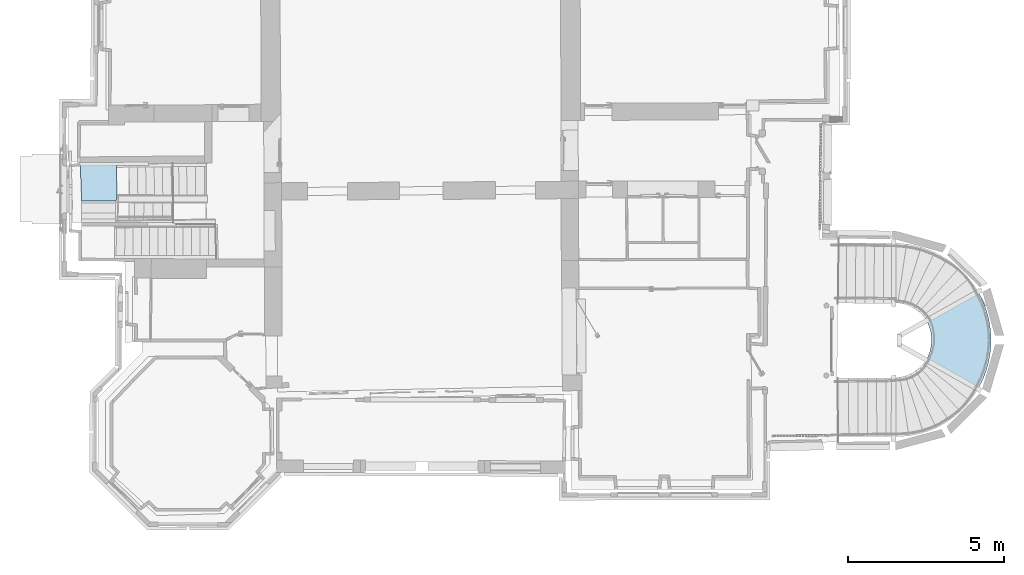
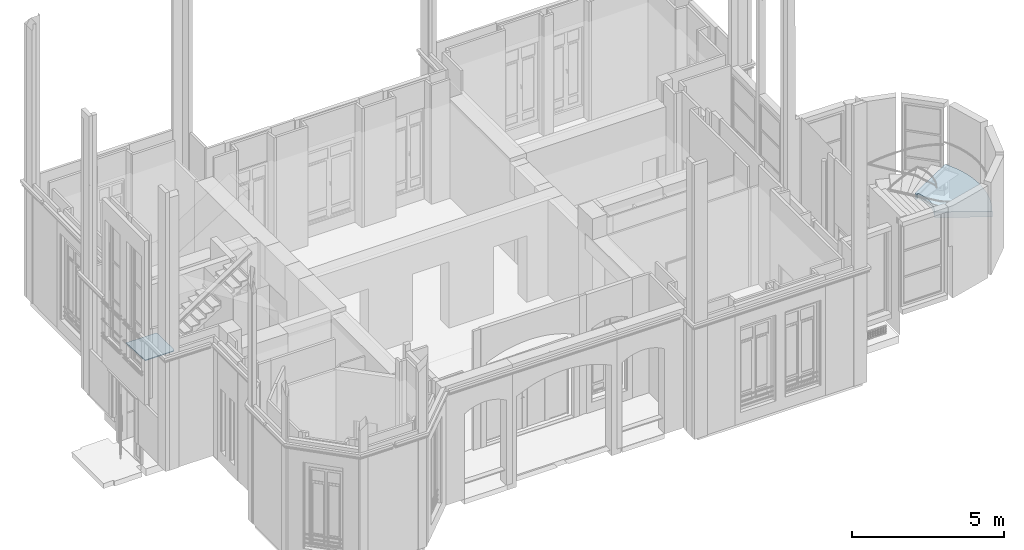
# One storey, part 39 of 97: 2 slabs, 2 elements without a shape of their own.
"""IFC2X3 building model written with IfcOpenShell, lengths in centimetres."""

from ifc_helpers import new_model, entity, si_unit, converted_unit, direction, frame, origin, origin_with_axes, place, context, subcontext, project, spatial, faceted_brep, material, material_list, element, aggregate, save


model = new_model("IFC2X3")

# Units and contexts
model_context = context("Model", 3, precision=0.0001, world=origin(), true_north=direction((0.225632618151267, 0.974212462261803, 0.0)))
body_context = subcontext(model_context, "Body", "Model", "MODEL_VIEW")
ifc_project = project(units=[si_unit("LENGTHUNIT", "METRE", prefix="CENTI"), si_unit("AREAUNIT", "SQUARE_METRE", prefix="CENTI"), si_unit("VOLUMEUNIT", "CUBIC_METRE", prefix="CENTI"), converted_unit("PLANEANGLEUNIT", "DEGREE", entity("IfcRatioMeasure", 0.0174532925), si_unit("PLANEANGLEUNIT", "RADIAN"), dimensions=[0, 0, 0, 0, 0, 0, 0])], contexts=[model_context])

# Site, building, storey
site_placement = place(None, origin_with_axes())
site = spatial("IfcSite", under=ifc_project, at=site_placement, Name="Default Site", CompositionType="ELEMENT")
building_placement = place(site_placement, origin_with_axes())
building = spatial("IfcBuilding", under=site, at=building_placement, Name="Default Building", CompositionType="ELEMENT")
storey_placement = place(building_placement, origin_with_axes())
storey = spatial("IfcBuildingStorey", under=building, at=storey_placement, Name="Rez-de-chaussée", CompositionType="ELEMENT", Elevation=0.0)

# Stair, slab
stair_1_placement = place(storey_placement, frame((1122.40148576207, -332.078331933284, 0.0), z_axis=(0.0, 0.0, 1.0), x_axis=(1.0, 0.0, 0.0)))
stair_1 = element("IfcStair", 1, at=stair_1_placement, inside=storey, Name="Escalier 718692", ShapeType="NOTDEFINED")
ifc_material_1 = material(Name="Blanc")
ifc_material_2 = material(Name="Carreau décoré (85)")
ifc_material_list = material_list([ifc_material_1, ifc_material_2])
slab_1_placement = place(stair_1_placement, frame((447.220267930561, -371.911078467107, 235.89768409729), z_axis=(0.0, 0.0, 1.0), x_axis=(0.833831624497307, -0.552018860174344, 0.0)))
slab_1 = element("IfcSlab", 2, at=slab_1_placement, material=ifc_material_list, Name="4294967285", PredefinedType="LANDING", context=body_context, shape_type="Brep", body=[
    faceted_brep([(-260.4597335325, 87.4667019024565, -20.0000047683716), (-260.4597335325, 87.4667019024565, 0.0), (-171.231371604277, 260.322120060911, 0.0), (-171.231371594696, 260.322120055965, 0.0), (-171.231371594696, 260.322120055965, -20.0000047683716), (-260.459733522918, 87.4667018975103, -20.0000047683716), (-254.288012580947, 83.0273324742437, -20.0000047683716), (-254.288012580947, 83.0273324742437, 0.0), (-260.459733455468, 87.4667020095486, 0.0), (-254.28801265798, 83.0273323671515, -20.0000047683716), (-251.144103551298, 88.0639562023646, -20.0000047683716), (-251.144103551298, 88.0639562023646, 0.0), (-254.288012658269, 83.0273325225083, 0.0), (-251.144103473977, 88.0639561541, -20.0000047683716), (0.0, 0.0, -20.0000047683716), (0.0, 0.0, 0.0), (-189.549330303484, -15.6200793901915, 0.0), (-189.549330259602, -15.6200799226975, 0.0), (-189.549330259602, -15.6200799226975, -20.0000047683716), (4.38819105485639e-08, -5.32506048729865e-07, -20.0000047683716), (-216.056686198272, 56.9985823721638, -20.0000047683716), (-79.1276598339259, 190.020454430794, -20.0000047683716), (-64.2190758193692, 172.109077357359, -20.0000047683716), (-50.6925110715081, 153.132366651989, -20.0000047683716), (-207.216155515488, 44.0223296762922, -20.0000047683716), (-226.434752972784, 68.7814403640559, -20.0000047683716), (-112.749229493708, 222.252064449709, -20.0000047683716), (-95.334633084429, 206.766087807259, -20.0000047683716), (-238.190729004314, 79.1899061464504, -20.0000047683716), (-131.273703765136, 236.391550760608, -20.0000047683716), (-150.804281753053, 249.105364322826, -20.0000047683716), (-191.147033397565, 8.88178419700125e-14, -20.0000047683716), (-6.15062594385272, 46.1676839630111, -20.0000047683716), (-2.21046684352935, 23.1990461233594, -20.0000047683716), (-194.664860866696, 15.3024299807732, -20.0000047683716), (-19.1221406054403, 90.9004954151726, -20.0000047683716), (-11.7984357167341, 68.7770824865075, -20.0000047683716), (-200.048817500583, 30.0520649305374, -20.0000047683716), (-38.6237203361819, 133.196803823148, -20.0000047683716), (-28.080612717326, 112.413950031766, -20.0000047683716), (-238.190729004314, 79.1899061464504, 0.0), (-251.144103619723, 88.0639561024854, -20.0000047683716), (-251.144103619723, 88.0639561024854, 4.27220342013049e-24), (-226.434752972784, 68.7814403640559, 0.0), (-238.190728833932, 79.1899063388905, -20.0000047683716), (-238.190728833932, 79.1899063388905, 0.0), (-216.056686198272, 56.9985823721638, 0.0), (-226.434752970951, 68.7814403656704, -20.0000047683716), (-226.434752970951, 68.7814403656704, 0.0), (-207.216155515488, 44.0223296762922, 0.0), (-216.056686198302, 56.9985823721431, -20.0000047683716), (-216.056686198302, 56.9985823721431, 0.0), (-200.048817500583, 30.0520649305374, 0.0), (-207.21615546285, 44.0223297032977, -20.0000047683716), (-207.21615546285, 44.0223297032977, 0.0), (-194.664860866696, 15.3024299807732, 0.0), (-200.048817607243, 30.0520648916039, -20.0000047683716), (-200.048817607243, 30.0520648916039, 4.00665551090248e-24), (-191.147033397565, 8.88178419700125e-14, 0.0), (-194.664860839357, 15.3024299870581, -20.0000047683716), (-194.664860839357, 15.3024299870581, 0.0), (-191.147033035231, 3.70614767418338e-08, -20.0000047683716), (-191.147033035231, 3.70614767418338e-08, -2.57049480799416e-23), (-2.21046684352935, 23.1990461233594, 0.0), (-6.15062594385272, 46.1676839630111, 0.0), (-11.7984357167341, 68.7770824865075, 0.0), (-19.1221406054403, 90.9004954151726, 0.0), (-28.080612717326, 112.413950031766, 0.0), (-38.6237203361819, 133.196803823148, 0.0), (-50.6925110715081, 153.132366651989, 0.0), (-64.2190758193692, 172.109077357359, 0.0), (-79.1276598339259, 190.020454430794, 0.0), (-95.334633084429, 206.766087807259, 0.0), (-112.749229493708, 222.252064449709, 0.0), (-131.273703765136, 236.391550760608, 0.0), (-150.804281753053, 249.105364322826, 0.0), (3.68959485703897e-07, 3.5155447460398e-08, -20.0000047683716), (3.68959485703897e-07, 3.5155447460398e-08, 3.15911973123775e-23), (3.68959487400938e-07, 3.51554476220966e-08, -20.0000047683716), (-2.21046700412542, 23.1990460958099, -20.0000047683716), (-2.21046700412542, 23.1990460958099, 0.0), (-6.15062582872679, 46.1676839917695, -20.0000047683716), (-6.15062582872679, 46.1676839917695, -1.01144474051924e-23), (-11.7984357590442, 68.7770824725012, -20.0000047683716), (-11.7984357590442, 68.7770824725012, 0.0), (-19.1221404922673, 90.9004954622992, -20.0000047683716), (-19.1221404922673, 90.9004954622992, 0.0), (-28.0806127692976, 112.413950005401, -20.0000047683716), (-28.0806127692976, 112.413950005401, 0.0), (-38.6237203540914, 133.196803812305, -20.0000047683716), (-38.6237203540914, 133.196803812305, 0.0), (-50.6925110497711, 153.132366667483, -20.0000047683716), (-50.6925110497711, 153.132366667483, 0.0), (-64.2190758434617, 172.109077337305, -20.0000047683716), (-64.2190758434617, 172.109077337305, 6.67959777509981e-25), (-79.1276597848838, 190.020454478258, -20.0000047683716), (-79.1276597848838, 190.020454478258, 0.0), (-95.3346328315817, 206.766088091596, -20.0000047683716), (-95.3346328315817, 206.766088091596, 0.0), (-112.749229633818, 222.252064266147, -20.0000047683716), (-112.749229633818, 222.252064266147, 0.0), (-131.273703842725, 236.391550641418, -20.0000047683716), (-131.273703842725, 236.391550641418, -1.21222909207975e-23), (-150.804281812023, 249.105364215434, -20.0000047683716), (-150.804281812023, 249.105364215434, 0.0)], [[[0, 1, 2]], [[3, 4, 5]], [[6, 7, 8]], [[1, 0, 9]], [[10, 11, 12]], [[7, 6, 13]], [[14, 15, 16]], [[17, 18, 19]], [[20, 21, 22]], [[20, 22, 23]], [[20, 23, 24]], [[25, 26, 27]], [[25, 27, 21]], [[25, 21, 20]], [[28, 29, 26]], [[28, 26, 25]], [[10, 4, 30]], [[10, 30, 29]], [[10, 29, 28]], [[0, 10, 6]], [[0, 4, 10]], [[31, 14, 18]], [[31, 32, 33]], [[31, 33, 14]], [[34, 35, 36]], [[34, 36, 32]], [[34, 32, 31]], [[37, 38, 39]], [[37, 39, 35]], [[37, 35, 34]], [[24, 23, 38]], [[24, 38, 37]], [[40, 41, 28]], [[40, 42, 41]], [[43, 44, 25]], [[43, 45, 44]], [[46, 47, 20]], [[46, 48, 47]], [[49, 50, 24]], [[49, 51, 50]], [[52, 53, 37]], [[52, 54, 53]], [[55, 56, 34]], [[55, 57, 56]], [[58, 59, 31]], [[58, 60, 59]], [[17, 61, 18]], [[17, 62, 61]], [[15, 58, 17]], [[63, 58, 15]], [[11, 1, 7]], [[64, 55, 58]], [[64, 58, 63]], [[65, 55, 64]], [[66, 52, 55]], [[66, 55, 65]], [[67, 52, 66]], [[68, 49, 52]], [[68, 52, 67]], [[69, 46, 49]], [[69, 49, 68]], [[70, 46, 69]], [[71, 43, 46]], [[71, 46, 70]], [[72, 43, 71]], [[73, 40, 43]], [[73, 43, 72]], [[74, 11, 40]], [[74, 40, 73]], [[75, 11, 74]], [[3, 1, 11]], [[3, 11, 75]], [[63, 76, 33]], [[63, 77, 78]], [[64, 79, 32]], [[64, 80, 79]], [[65, 81, 36]], [[65, 82, 81]], [[66, 83, 35]], [[66, 84, 83]], [[67, 85, 39]], [[67, 86, 85]], [[68, 87, 38]], [[68, 88, 87]], [[69, 89, 23]], [[69, 90, 89]], [[70, 91, 22]], [[70, 92, 91]], [[71, 93, 21]], [[71, 94, 93]], [[72, 95, 27]], [[72, 96, 95]], [[73, 97, 26]], [[73, 98, 97]], [[74, 99, 29]], [[74, 100, 99]], [[75, 101, 30]], [[75, 102, 101]], [[3, 103, 4]], [[3, 104, 103]]]),
    faceted_brep([(-260.4597335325, 87.4667019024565, 0.0), (-260.4597335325, 87.4667019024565, 2.99999713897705), (-171.231371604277, 260.322120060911, 2.99999713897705), (-171.231371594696, 260.322120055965, 2.99999713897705), (-171.231371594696, 260.322120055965, 0.0), (-260.459733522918, 87.4667018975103, 0.0), (-254.288012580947, 83.0273324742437, 0.0), (-254.288012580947, 83.0273324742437, 2.99999713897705), (-260.459733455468, 87.4667020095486, 2.99999713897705), (-254.28801265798, 83.0273323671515, 0.0), (-251.144103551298, 88.0639562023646, 0.0), (-251.144103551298, 88.0639562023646, 2.99999713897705), (-254.288012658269, 83.0273325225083, 2.99999713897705), (-251.144103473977, 88.0639561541, 0.0), (0.0, 0.0, 0.0), (0.0, 0.0, 2.99999713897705), (-189.549330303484, -15.6200793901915, 2.99999713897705), (-189.549330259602, -15.6200799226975, 2.99999713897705), (-189.549330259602, -15.6200799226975, 0.0), (4.38819105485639e-08, -5.32506048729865e-07, 0.0), (-216.056686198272, 56.9985823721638, 0.0), (-79.1276598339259, 190.020454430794, 0.0), (-64.2190758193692, 172.109077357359, 0.0), (-50.6925110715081, 153.132366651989, 0.0), (-207.216155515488, 44.0223296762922, 0.0), (-226.434752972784, 68.7814403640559, 0.0), (-112.749229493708, 222.252064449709, 0.0), (-95.334633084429, 206.766087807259, 0.0), (-238.190729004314, 79.1899061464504, 0.0), (-131.273703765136, 236.391550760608, 0.0), (-150.804281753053, 249.105364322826, 0.0), (-191.147033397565, 8.88178419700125e-14, 0.0), (-6.15062594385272, 46.1676839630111, 0.0), (-2.21046684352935, 23.1990461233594, 0.0), (-194.664860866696, 15.3024299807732, 0.0), (-19.1221406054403, 90.9004954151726, 0.0), (-11.7984357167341, 68.7770824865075, 0.0), (-200.048817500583, 30.0520649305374, 0.0), (-38.6237203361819, 133.196803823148, 0.0), (-28.080612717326, 112.413950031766, 0.0), (-238.190729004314, 79.1899061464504, 2.99999713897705), (-251.144103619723, 88.0639561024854, 0.0), (-251.144103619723, 88.0639561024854, 2.99999713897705), (-226.434752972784, 68.7814403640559, 2.99999713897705), (-238.190728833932, 79.1899063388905, 0.0), (-238.190728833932, 79.1899063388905, 2.99999713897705), (-238.190728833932, 79.1899063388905, -3.80135052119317e-23), (-216.056686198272, 56.9985823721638, 2.99999713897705), (-226.434752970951, 68.7814403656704, 0.0), (-226.434752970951, 68.7814403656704, 2.99999713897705), (-207.216155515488, 44.0223296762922, 2.99999713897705), (-216.056686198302, 56.9985823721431, 0.0), (-216.056686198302, 56.9985823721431, 2.99999713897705), (-200.048817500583, 30.0520649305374, 2.99999713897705), (-207.21615546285, 44.0223297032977, 0.0), (-207.21615546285, 44.0223297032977, 2.99999713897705), (-207.21615546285, 44.0223297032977, 4.37486885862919e-24), (-194.664860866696, 15.3024299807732, 2.99999713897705), (-200.048817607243, 30.0520648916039, 0.0), (-200.048817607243, 30.0520648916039, 2.99999713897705), (-191.147033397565, 8.88178419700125e-14, 2.99999713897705), (-194.664860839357, 15.3024299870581, 0.0), (-194.664860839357, 15.3024299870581, 2.99999713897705), (-191.147033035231, 3.70614767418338e-08, 0.0), (-191.147033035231, 3.70614767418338e-08, 2.99999713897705), (-191.147033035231, 3.70614767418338e-08, -1.07735157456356e-22), (-2.21046684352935, 23.1990461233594, 2.99999713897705), (-6.15062594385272, 46.1676839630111, 2.99999713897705), (-11.7984357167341, 68.7770824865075, 2.99999713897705), (-19.1221406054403, 90.9004954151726, 2.99999713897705), (-28.080612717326, 112.413950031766, 2.99999713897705), (-38.6237203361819, 133.196803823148, 2.99999713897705), (-50.6925110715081, 153.132366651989, 2.99999713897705), (-64.2190758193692, 172.109077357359, 2.99999713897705), (-79.1276598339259, 190.020454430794, 2.99999713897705), (-95.334633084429, 206.766087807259, 2.99999713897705), (-112.749229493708, 222.252064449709, 2.99999713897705), (-131.273703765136, 236.391550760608, 2.99999713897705), (-150.804281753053, 249.105364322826, 2.99999713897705), (3.68959485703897e-07, 3.5155447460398e-08, 0.0), (3.68959485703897e-07, 3.5155447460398e-08, 2.99999713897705), (3.6895948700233e-07, 3.51554475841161e-08, 1.61139629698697e-22), (-2.21046700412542, 23.1990460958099, 0.0), (-2.21046700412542, 23.1990460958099, 2.99999713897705), (-6.15062582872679, 46.1676839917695, 0.0), (-6.15062582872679, 46.1676839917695, 2.99999713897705), (-6.15062582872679, 46.1676839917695, -5.15915470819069e-23), (-11.7984357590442, 68.7770824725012, 0.0), (-11.7984357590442, 68.7770824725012, 2.99999713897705), (-11.7984357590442, 68.7770824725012, -1.93769698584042e-23), (-19.1221404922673, 90.9004954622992, 0.0), (-19.1221404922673, 90.9004954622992, 2.99999713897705), (-19.1221404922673, 90.9004954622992, -2.66500021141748e-23), (-28.0806127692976, 112.413950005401, 0.0), (-28.0806127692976, 112.413950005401, 2.99999713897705), (-38.6237203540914, 133.196803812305, 0.0), (-38.6237203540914, 133.196803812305, 2.99999713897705), (-38.6237203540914, 133.196803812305, -1.1377792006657e-24), (-50.6925110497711, 153.132366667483, 0.0), (-50.6925110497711, 153.132366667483, 2.99999713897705), (-64.2190758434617, 172.109077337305, 0.0), (-64.2190758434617, 172.109077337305, 2.99999713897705), (-79.1276597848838, 190.020454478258, 0.0), (-79.1276597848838, 190.020454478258, 2.99999713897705), (-79.1276597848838, 190.020454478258, -1.4836508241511e-23), (-95.3346328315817, 206.766088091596, 0.0), (-95.3346328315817, 206.766088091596, 2.99999713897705), (-95.3346328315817, 206.766088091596, -8.27151258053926e-23), (-112.749229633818, 222.252064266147, 0.0), (-112.749229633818, 222.252064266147, 2.99999713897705), (-131.273703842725, 236.391550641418, 0.0), (-131.273703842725, 236.391550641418, 2.99999713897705), (-150.804281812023, 249.105364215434, 0.0), (-150.804281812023, 249.105364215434, 2.99999713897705)], [[[0, 1, 2]], [[3, 4, 5]], [[6, 7, 8]], [[1, 0, 9]], [[10, 11, 12]], [[7, 6, 13]], [[14, 15, 16]], [[17, 18, 19]], [[20, 21, 22]], [[20, 22, 23]], [[20, 23, 24]], [[25, 26, 27]], [[25, 27, 21]], [[25, 21, 20]], [[28, 29, 26]], [[28, 26, 25]], [[10, 4, 30]], [[10, 30, 29]], [[10, 29, 28]], [[0, 10, 6]], [[0, 4, 10]], [[31, 14, 18]], [[31, 32, 33]], [[31, 33, 14]], [[34, 35, 36]], [[34, 36, 32]], [[34, 32, 31]], [[37, 38, 39]], [[37, 39, 35]], [[37, 35, 34]], [[24, 23, 38]], [[24, 38, 37]], [[40, 41, 28]], [[40, 42, 41]], [[43, 44, 25]], [[43, 45, 46]], [[47, 48, 20]], [[47, 49, 48]], [[50, 51, 24]], [[50, 52, 51]], [[53, 54, 37]], [[53, 55, 56]], [[57, 58, 34]], [[57, 59, 58]], [[60, 61, 31]], [[60, 62, 61]], [[17, 63, 18]], [[17, 64, 65]], [[15, 60, 17]], [[66, 60, 15]], [[11, 1, 7]], [[67, 57, 60]], [[67, 60, 66]], [[68, 57, 67]], [[69, 53, 57]], [[69, 57, 68]], [[70, 53, 69]], [[71, 50, 53]], [[71, 53, 70]], [[72, 47, 50]], [[72, 50, 71]], [[73, 47, 72]], [[74, 43, 47]], [[74, 47, 73]], [[75, 43, 74]], [[76, 40, 43]], [[76, 43, 75]], [[77, 11, 40]], [[77, 40, 76]], [[78, 11, 77]], [[3, 1, 11]], [[3, 11, 78]], [[66, 79, 33]], [[66, 80, 81]], [[67, 82, 32]], [[67, 83, 82]], [[68, 84, 36]], [[68, 85, 86]], [[69, 87, 35]], [[69, 88, 89]], [[70, 90, 39]], [[70, 91, 92]], [[71, 93, 38]], [[71, 94, 93]], [[72, 95, 23]], [[72, 96, 97]], [[73, 98, 22]], [[73, 99, 98]], [[74, 100, 21]], [[74, 101, 100]], [[75, 102, 27]], [[75, 103, 104]], [[76, 105, 26]], [[76, 106, 107]], [[77, 108, 29]], [[77, 109, 108]], [[78, 110, 30]], [[78, 111, 110]], [[3, 112, 4]], [[3, 113, 112]]]),
])
aggregate(stair_1, [slab_1])

stair_2_placement = place(storey_placement, frame((-869.486892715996, -231.842367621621, 0.0), z_axis=(0.0, 0.0, 1.0), x_axis=(1.0, 0.0, 0.0)))
stair_2 = element("IfcStair", 3, at=stair_2_placement, inside=storey, Name="Escalier 12888", ShapeType="NOTDEFINED")
ifc_material_3 = material(Name="Épicéa")
slab_2_placement = place(stair_2_placement, frame((-429.958736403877, 130.056064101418, 280.086922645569), z_axis=(0.0, 0.0, 1.0), x_axis=(-0.687837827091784, -0.72586439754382, 0.0)))
slab_2 = element("IfcSlab", 4, at=slab_2_placement, material=ifc_material_3, Name="4294967266", PredefinedType="LANDING", context=body_context, shape_type="Brep", body=[
    faceted_brep([(0.0, 0.0, -4.44089209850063e-14), (-162.248820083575, 0.0, -4.44089209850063e-14), (-82.58278306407, -84.4982591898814, -4.44089209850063e-14), (-75.4355621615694, 79.7765987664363, -4.44089209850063e-14), (-85.8974624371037, 74.718883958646, -4.44089209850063e-14), (-162.248820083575, 0.0, -2.9999971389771), (0.0, 0.0, -2.9999971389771), (-82.58278306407, -84.4982591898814, -2.9999971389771), (-75.4355621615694, 79.7765987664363, -2.9999971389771), (-85.8974624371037, 74.718883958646, -2.9999971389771), (-6.60918883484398e-10, -6.24955040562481e-10, -4.44089209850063e-14), (-75.4355621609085, 79.7765987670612, -2.9999971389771), (-75.4355621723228, 79.7765987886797, -4.44089209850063e-14), (-85.8974624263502, 74.7188839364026, -2.9999971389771), (-85.8974624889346, 74.7188840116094, -4.44089209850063e-14), (-162.248820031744, -5.296333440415e-08, -2.9999971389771), (-162.248820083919, -3.23790153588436e-10, -4.44089209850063e-14), (-82.5827830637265, -84.4982591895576, -2.9999971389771), (-82.5827831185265, -84.4982591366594, -4.44089209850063e-14), (5.4456498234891e-08, -5.322203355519e-08, -2.9999971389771)], [[[0, 1, 2]], [[1, 0, 3]], [[1, 3, 4]], [[5, 6, 7]], [[6, 5, 8]], [[8, 5, 9]], [[8, 3, 10]], [[0, 6, 11]], [[9, 4, 12]], [[3, 8, 13]], [[5, 1, 14]], [[4, 9, 15]], [[7, 2, 16]], [[1, 5, 17]], [[6, 0, 18]], [[2, 7, 19]]]),
])
aggregate(stair_2, [slab_2])

save(model, "model.ifc")
